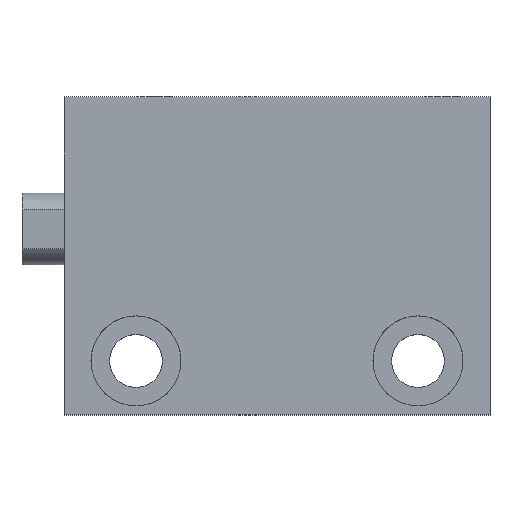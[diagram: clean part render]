
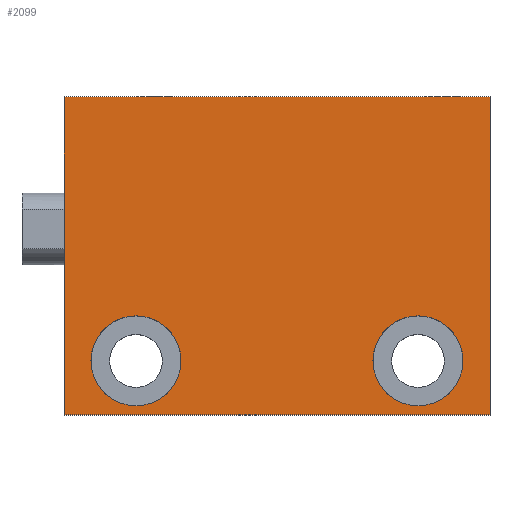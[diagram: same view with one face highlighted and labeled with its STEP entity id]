
A CAD part, top view. The second image highlights one B-rep face of the part: STEP entity #2099.
In plain terms, the highlighted planar face has unit normal (0, 0, 1).
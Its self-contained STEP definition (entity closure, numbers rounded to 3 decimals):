
#72 = EDGE_LOOP ( 'NONE', ( #2434, #248 ) ) ;
#86 = CARTESIAN_POINT ( 'NONE',  ( 35.5, -15.5, 8.5 ) ) ;
#94 = VECTOR ( 'NONE', #1094, 1000. ) ;
#137 = CARTESIAN_POINT ( 'NONE',  ( 35.5, 11., 8.5 ) ) ;
#141 = EDGE_CURVE ( 'NONE', #2485, #2526, #1096, .T. ) ;
#166 = LINE ( 'NONE', #137, #94 ) ;
#248 = ORIENTED_EDGE ( 'NONE', *, *, #1062, .F. ) ;
#291 = AXIS2_PLACEMENT_3D ( 'NONE', #520, #1963, #1528 ) ;
#311 = VERTEX_POINT ( 'NONE', #2985 ) ;
#337 = CARTESIAN_POINT ( 'NONE',  ( 33.25, -11., 8.5 ) ) ;
#339 = VERTEX_POINT ( 'NONE', #2699 ) ;
#504 = CARTESIAN_POINT ( 'NONE',  ( 35.5, -15.5, 8.5 ) ) ;
#520 = CARTESIAN_POINT ( 'NONE',  ( 29.5, -11., 8.5 ) ) ;
#566 = FACE_BOUND ( 'NONE', #72, .T. ) ;
#580 = PLANE ( 'NONE',  #2972 ) ;
#690 = CIRCLE ( 'NONE', #2004, 3.75 ) ;
#796 = VERTEX_POINT ( 'NONE', #337 ) ;
#816 = EDGE_CURVE ( 'NONE', #2654, #1794, #2208, .T. ) ;
#827 = CARTESIAN_POINT ( 'NONE',  ( 35.5, 11., 8.5 ) ) ;
#836 = LINE ( 'NONE', #1792, #1258 ) ;
#848 = CARTESIAN_POINT ( 'NONE',  ( 35.5, -15.5, 8.5 ) ) ;
#851 = AXIS2_PLACEMENT_3D ( 'NONE', #1090, #2076, #872 ) ;
#872 = DIRECTION ( 'NONE',  ( 1., 0., 0. ) ) ;
#921 = DIRECTION ( 'NONE',  ( 0., 0., 1. ) ) ;
#1062 = EDGE_CURVE ( 'NONE', #1794, #2654, #2768, .T. ) ;
#1090 = CARTESIAN_POINT ( 'NONE',  ( 6., -11., 8.5 ) ) ;
#1094 = DIRECTION ( 'NONE',  ( -1., 0., 0. ) ) ;
#1096 = LINE ( 'NONE', #848, #2511 ) ;
#1146 = EDGE_LOOP ( 'NONE', ( #2449, #2645, #2401, #2588 ) ) ;
#1258 = VECTOR ( 'NONE', #2757, 1000. ) ;
#1392 = AXIS2_PLACEMENT_3D ( 'NONE', #1768, #2732, #2365 ) ;
#1397 = EDGE_CURVE ( 'NONE', #2843, #339, #166, .T. ) ;
#1443 = CARTESIAN_POINT ( 'NONE',  ( 29.5, -11., 8.5 ) ) ;
#1519 = DIRECTION ( 'NONE',  ( 0., 0., 1. ) ) ;
#1528 = DIRECTION ( 'NONE',  ( 1., 0., 0. ) ) ;
#1618 = LINE ( 'NONE', #2259, #2602 ) ;
#1641 = CIRCLE ( 'NONE', #291, 3.75 ) ;
#1736 = CARTESIAN_POINT ( 'NONE',  ( 0., -15.5, 8.5 ) ) ;
#1768 = CARTESIAN_POINT ( 'NONE',  ( 6., -11., 8.5 ) ) ;
#1779 = DIRECTION ( 'NONE',  ( 0., 1., 0. ) ) ;
#1792 = CARTESIAN_POINT ( 'NONE',  ( 0., -15.5, 8.5 ) ) ;
#1794 = VERTEX_POINT ( 'NONE', #3010 ) ;
#1816 = ORIENTED_EDGE ( 'NONE', *, *, #2554, .F. ) ;
#1880 = DIRECTION ( 'NONE',  ( 1., 0., 0. ) ) ;
#1927 = CARTESIAN_POINT ( 'NONE',  ( 9.75, -11., 8.5 ) ) ;
#1963 = DIRECTION ( 'NONE',  ( 0., 0., 1. ) ) ;
#2004 = AXIS2_PLACEMENT_3D ( 'NONE', #1443, #921, #1880 ) ;
#2076 = DIRECTION ( 'NONE',  ( 0., 0., 1. ) ) ;
#2099 = ADVANCED_FACE ( 'NONE', ( #2204, #2948, #566 ), #580, .T. ) ;
#2141 = EDGE_CURVE ( 'NONE', #2526, #339, #836, .T. ) ;
#2204 = FACE_OUTER_BOUND ( 'NONE', #1146, .T. ) ;
#2208 = CIRCLE ( 'NONE', #851, 3.75 ) ;
#2259 = CARTESIAN_POINT ( 'NONE',  ( 35.5, -15.5, 8.5 ) ) ;
#2286 = EDGE_LOOP ( 'NONE', ( #2759, #1816 ) ) ;
#2365 = DIRECTION ( 'NONE',  ( 1., 0., 0. ) ) ;
#2401 = ORIENTED_EDGE ( 'NONE', *, *, #2778, .T. ) ;
#2434 = ORIENTED_EDGE ( 'NONE', *, *, #816, .F. ) ;
#2449 = ORIENTED_EDGE ( 'NONE', *, *, #2141, .F. ) ;
#2485 = VERTEX_POINT ( 'NONE', #504 ) ;
#2511 = VECTOR ( 'NONE', #2993, 1000. ) ;
#2526 = VERTEX_POINT ( 'NONE', #1736 ) ;
#2554 = EDGE_CURVE ( 'NONE', #311, #796, #1641, .T. ) ;
#2583 = DIRECTION ( 'NONE',  ( 0., 1., 0. ) ) ;
#2588 = ORIENTED_EDGE ( 'NONE', *, *, #1397, .T. ) ;
#2602 = VECTOR ( 'NONE', #2583, 1000. ) ;
#2645 = ORIENTED_EDGE ( 'NONE', *, *, #141, .F. ) ;
#2654 = VERTEX_POINT ( 'NONE', #1927 ) ;
#2678 = EDGE_CURVE ( 'NONE', #796, #311, #690, .T. ) ;
#2699 = CARTESIAN_POINT ( 'NONE',  ( 0., 11., 8.5 ) ) ;
#2732 = DIRECTION ( 'NONE',  ( 0., 0., 1. ) ) ;
#2757 = DIRECTION ( 'NONE',  ( 0., 1., 0. ) ) ;
#2759 = ORIENTED_EDGE ( 'NONE', *, *, #2678, .F. ) ;
#2768 = CIRCLE ( 'NONE', #1392, 3.75 ) ;
#2778 = EDGE_CURVE ( 'NONE', #2485, #2843, #1618, .T. ) ;
#2843 = VERTEX_POINT ( 'NONE', #827 ) ;
#2948 = FACE_BOUND ( 'NONE', #2286, .T. ) ;
#2972 = AXIS2_PLACEMENT_3D ( 'NONE', #86, #1519, #1779 ) ;
#2985 = CARTESIAN_POINT ( 'NONE',  ( 25.75, -11., 8.5 ) ) ;
#2993 = DIRECTION ( 'NONE',  ( -1., 0., 0. ) ) ;
#3010 = CARTESIAN_POINT ( 'NONE',  ( 2.25, -11., 8.5 ) ) ;
